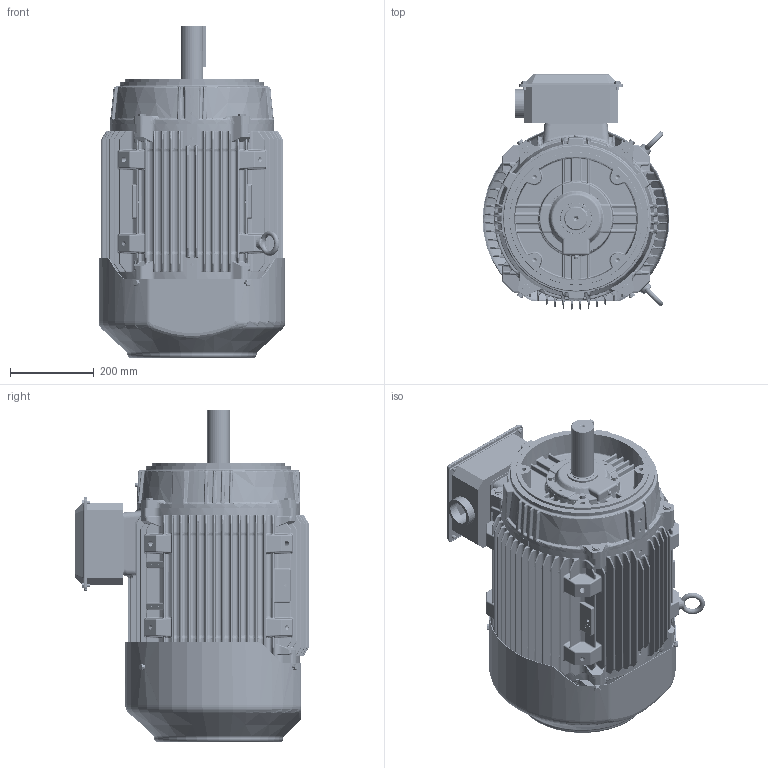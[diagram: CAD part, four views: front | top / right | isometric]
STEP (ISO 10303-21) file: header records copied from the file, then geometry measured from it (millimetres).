
FILE_DESCRIPTION (( 'STEP AP203' ), '1' );
FILE_NAME ('SS621025_RevD.STEP', '2022-07-08T07:15:37', ( '' ), ( '' ), 'SwSTEP 2.0', 'SolidWorks 2021', '' );
FILE_SCHEMA (( 'CONFIG_CONTROL_DESIGN' ));
Products named in the file (1): SS621025_RevD
Bounding box: 446 x 560.77 x 792.3 mm (x, y, z)
Volume: 16331504.5 mm3; surface area: 4217899.6 mm2
Topology: 55 solids, 55 shells, 9013 faces, 22223 edges, 13145 vertices
Faces by surface type: cylinder 3111, bspline 2621, plane 1219, torus 1029, cone 655, sphere 378
Entity records: 354481 total; most frequent: CARTESIAN_POINT 158649, ORIENTED_EDGE 43732, DIRECTION 38683, EDGE_CURVE 21866, AXIS2_PLACEMENT_3D 16593, VERTEX_POINT 13083, CIRCLE 10200, EDGE_LOOP 9857
